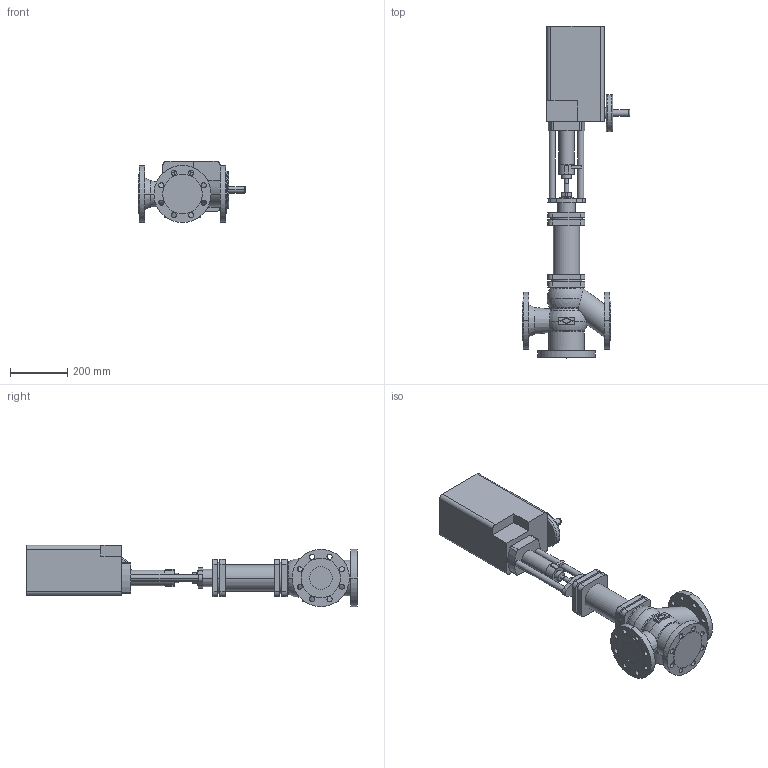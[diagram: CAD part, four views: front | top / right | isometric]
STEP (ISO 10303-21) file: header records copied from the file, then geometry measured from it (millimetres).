
FILE_DESCRIPTION(('OneSpaceDesigner STEP Export'),'2;1');
FILE_NAME('c000002475.stp','2006-09-21T12:01:58',(''),(''),'OneSpace Designer STEP processor for AP214 (Solid Model)','OneSpace Designer 13.20A 18-Aug-2005 (C) CoCreate Software GmbH','');
FILE_SCHEMA(('AUTOMOTIVE_DESIGN { 1 0 10303 214 1 1 1 1 }'));
Length unit declared in the file: millimetre
Products named in the file (2): 1; 2
Bounding box: 376.6 x 1161.2 x 214 mm (x, y, z)
Volume: 21650164.7 mm3; surface area: 969047 mm2
Topology: 2 solids, 2 shells, 273 faces, 696 edges, 458 vertices
Faces by surface type: cylinder 140, plane 106, torus 19, sphere 4, cone 4
Entity records: 7810 total; most frequent: CARTESIAN_POINT 1586, ORIENTED_EDGE 1384, DIRECTION 1155, EDGE_CURVE 692, VERTEX_POINT 458, AXIS2_PLACEMENT_3D 417, EDGE_LOOP 356, VECTOR 321
